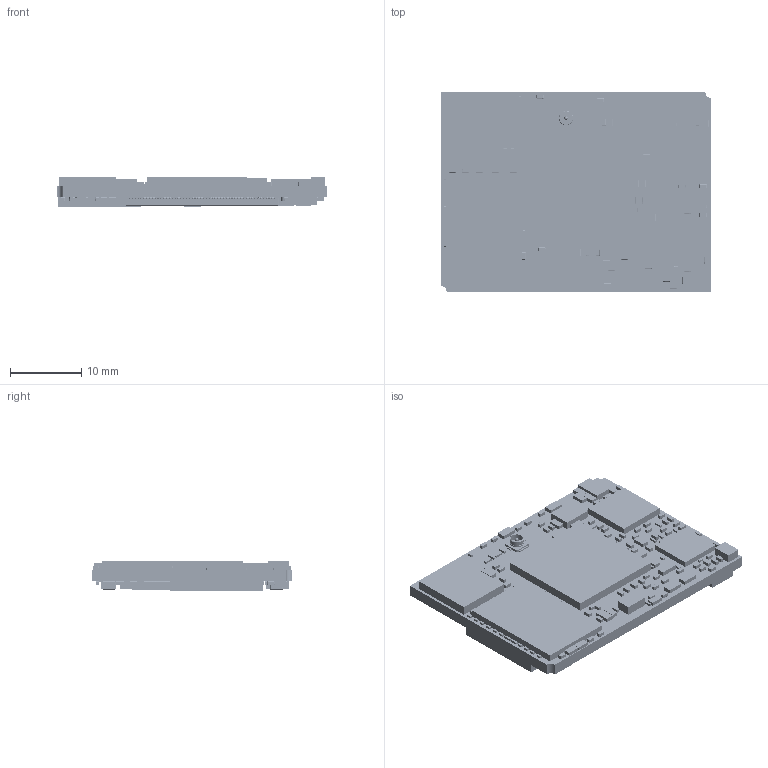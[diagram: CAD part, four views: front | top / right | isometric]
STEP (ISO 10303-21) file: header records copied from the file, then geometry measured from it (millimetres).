
FILE_DESCRIPTION (( 'STEP AP214' ), '1' );
FILE_NAME ('UCM-iMX8M V1.4_asm.STEP', '2026-07-27T17:29:39', ( '' ), ( '' ), 'SwSTEP 2.0', 'SolidWorks 2024', '' );
FILE_SCHEMA (( 'AUTOMOTIVE_DESIGN' ));
Length unit declared in the file: millimetre
Products named in the file (60): 161B00001S_RC0201_161B00001S; 147A1R005S_Ind2_5x2x1_2_147A1R005S; 151C150B0S_RC0201_151C150B0S; 116B00660S_SIP-107-8x9_116B00660S; 161C10045S_0402_rnd_161C10045S; 161B10021S_RC0201_161B10021S; 151D4R700S_0402_compulab_151D4R700S; 163K04103S_Walsin-RESNET8P0805; 151C10300S_0402_rnd_151C10300S; 115A01100S_BGA-486-05-14x14_115A01100S; 151B104B0S_RC0201_Walsin; 161C15033S_0402_rnd_161C15033S; 123V3R300S_DFN1.2x1.3-04-6_123V3R300S; 161C82511S_0402_rnd_161C82511S; 106N20190S_SC-70-6_106N20190S; 151D18000S_0402_rnd_151D18000S; 116A01041S_BGA-12-05-2_1x2_6_116A01041S; 184C5000S-Conn._Coax_3x3mm_U.FL_I-PEX; 116B00360S_QFN3X3-16-1_116B00360S; 161C15011S_0402_rnd_161C15011S; 151D22200S_0402_rnd_151D22200S; 123M0R702S_uqfn56_0p4_7x7_ep_s185_123M0R702S; UCM-iMX8M V1.4_asm; 161C47511S_RC0402; 139A10260S_LED_0603_139A10260S; 161C33R05S_0402_rnd_161C33R05S; 151E47000S_0402_rnd_151E47000S; 116A82110S_MO-220WJJE_116A82110S; 161C10021S-RC0402FR-0710K0; 151D27000S_0402_rnd_151D27000S; 151D10000S_0402_rnd_151D10000S; 141B32301I_XTAL3_2x1_5_141B32301I; 151B22610S_0603_151B22610S; 151C10500S_RC0402_SAMSUNG; 147A4R704S_Ind2_5x2x1_2_147A4R704S; 182E10004S-Conn._B2B_2x50 cont._P0.4mm_Plug; 161C30001S_0402_rnd_161C30001S; 163K04000S_RESNET8P0805_163K04000S; 111M33201S_MO-276AB_111M33201S; 141B25603I_OSC3225_141B25603I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
Assembly tree (354 placements, depth 2):
  UCM-iMX8M V1.4_asm
    UCM-iMX8M V1.4_board
    106N20190S_SC-70-6_106N20190S
    111L53000S_BGA-200-08-10x15_111L53000S
    111M33201S_MO-276AB_111M33201S
    111S31000S_MO-229VCED-21
    115A01100S_BGA-486-05-14x14_115A01100S
    116A01041S_BGA-12-05-2_1x2_6_116A01041S
    116A82110S_MO-220WJJE_116A82110S
    116B00360S_QFN3X3-16-1_116B00360S
    116B00660S_SIP-107-8x9_116B00660S
    117A63200S_SOT23-5_117A63200S
    123M0R702S_uqfn56_0p4_7x7_ep_s185_123M0R702S
    123V3R300S_DFN1.2x1.3-04-6_123V3R300S
    139A10260S_LED_0603_139A10260S
    141B24605I_OSC3225_141B24605I
    141B25603I_OSC3225_141B25603I
    141B32301I_XTAL3_2x1_5_141B32301I  x2
    147A1R005S_Ind2_5x2x1_2_147A1R005S
    147A4R704S_Ind2_5x2x1_2_147A4R704S
    147AR4700S_Ind2_5x2x1_2_147AR4700S  x5
    151B10400S-Samsung_-_CL05A104KO5NNNC  x63
    151B104B0S_RC0201_Walsin  x53
    151B10600S_RC0402_SAMSUNG  x44
    151B22610S_0603_151B22610S  x19
    151C10300S_0402_rnd_151C10300S  x2
    151C10500S_RC0402_SAMSUNG  x12
    151C150B0S_RC0201_151C150B0S
    151D10000S_0402_rnd_151D10000S  x2
    151D18000S_0402_rnd_151D18000S  x3
    151D22200S_0402_rnd_151D22200S
    151D27000S_0402_rnd_151D27000S  x2
    151D4R700S_0402_compulab_151D4R700S  x2
    151E47000S_0402_rnd_151E47000S
    161B00001S_RC0201_161B00001S  x4
    161B10021S_RC0201_161B10021S  x6
    161B15001S_RC0201_161B15001S  x2
    161B33R01S_RC0201_161B33R01S  x3
    161B47511S_RC0201_161B47511S  x4
    161C00005S_RC0402  x10
    161C10021S-RC0402FR-0710K0  x48
    161C10031S_RC0402  x2
    161C10045S_0402_rnd_161C10045S
    161C15011S_0402_rnd_161C15011S
    161C15033S_0402_rnd_161C15033S
    161C20001S_0402_rnd_161C20001S  x2
    161C24003S_0402_rnd_161C24003S  x3
    161C24911S_RC0402_161C24911S
    161C30001S_0402_rnd_161C30001S
    161C30021S_0402_rnd_161C30021S  x2
    161C33R05S_0402_rnd_161C33R05S  x7
    161C47035S_0402_rnd_161C47035S
    161C47511S_RC0402  x10
    161C56231S_0402_rnd_161C56231S
    161C82511S_0402_rnd_161C82511S  x2
    163K04000S_RESNET8P0805_163K04000S  x5
    163K04103S_Walsin-RESNET8P0805  x3
    163K04104S_RESNET8P0805-compulab_163K04104S
    182E10004S-Conn._B2B_2x50 cont._P0.4mm_Plug  x2
    184C5000S-Conn._Coax_3x3mm_U.FL_I-PEX
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Bounding box: 38 x 28 x 4.33 mm (x, y, z)
Volume: 2889 mm3; surface area: 6736.5 mm2
Topology: 1410 solids, 1410 shells, 27072 faces, 72709 edges, 41571 vertices
Faces by surface type: plane 10638, cylinder 9523, bspline 6896, cone 14, sphere 1
Entity records: 111200 total; most frequent: CARTESIAN_POINT 19449, DIRECTION 15435, ORIENTED_EDGE 15162, EDGE_CURVE 7581, VECTOR 5539, LINE 5539, VERTEX_POINT 4970, AXIS2_PLACEMENT_3D 4948
